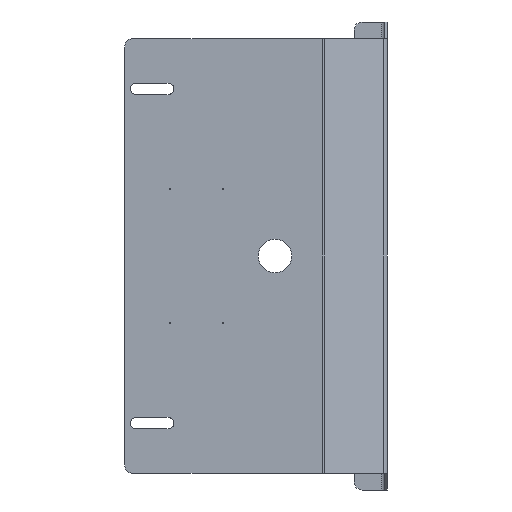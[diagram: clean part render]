
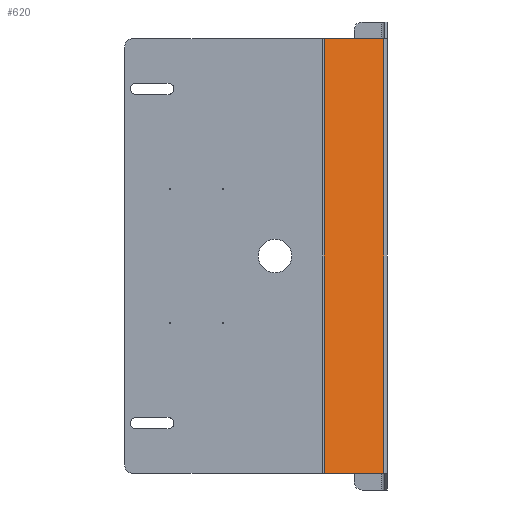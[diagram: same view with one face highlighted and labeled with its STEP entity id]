
A CAD part, left-side view. The second image highlights one B-rep face of the part: STEP entity #620.
In plain terms, the highlighted planar face has unit normal (-0.927, -0.375, 0).
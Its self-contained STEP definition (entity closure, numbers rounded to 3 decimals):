
#3 = VECTOR ( 'NONE', #1599, 1000. ) ;
#24 = DIRECTION ( 'NONE',  ( -0.927, -0.375, 0. ) ) ;
#76 = LINE ( 'NONE', #177, #3 ) ;
#160 = CARTESIAN_POINT ( 'NONE',  ( -20.498, -106.032, 140. ) ) ;
#177 = CARTESIAN_POINT ( 'NONE',  ( -20.498, -106.032, -130. ) ) ;
#233 = VECTOR ( 'NONE', #445, 1000. ) ;
#246 = LINE ( 'NONE', #506, #1536 ) ;
#323 = LINE ( 'NONE', #972, #1422 ) ;
#365 = CARTESIAN_POINT ( 'NONE',  ( -21.382, -103.843, -130. ) ) ;
#401 = EDGE_LOOP ( 'NONE', ( #971, #1113, #1195, #1367 ) ) ;
#412 = FACE_OUTER_BOUND ( 'NONE', #401, .T. ) ;
#425 = EDGE_CURVE ( 'NONE', #1652, #1573, #246, .T. ) ;
#430 = CARTESIAN_POINT ( 'NONE',  ( -35.743, -68.299, 130. ) ) ;
#445 = DIRECTION ( 'NONE',  ( 0., 0., -1. ) ) ;
#506 = CARTESIAN_POINT ( 'NONE',  ( -21.382, -103.843, 140. ) ) ;
#620 = ADVANCED_FACE ( 'NONE', ( #412 ), #805, .T. ) ;
#657 = CARTESIAN_POINT ( 'NONE',  ( -21.382, -103.843, 130. ) ) ;
#665 = VERTEX_POINT ( 'NONE', #430 ) ;
#694 = EDGE_CURVE ( 'NONE', #1652, #665, #323, .T. ) ;
#728 = EDGE_CURVE ( 'NONE', #1557, #1573, #76, .T. ) ;
#805 = PLANE ( 'NONE',  #1482 ) ;
#839 = DIRECTION ( 'NONE',  ( -0.375, 0.927, 0. ) ) ;
#865 = CARTESIAN_POINT ( 'NONE',  ( -35.743, -68.299, -130. ) ) ;
#889 = DIRECTION ( 'NONE',  ( 0., 0., -1. ) ) ;
#971 = ORIENTED_EDGE ( 'NONE', *, *, #425, .F. ) ;
#972 = CARTESIAN_POINT ( 'NONE',  ( -20.498, -106.032, 130. ) ) ;
#1087 = LINE ( 'NONE', #1614, #233 ) ;
#1113 = ORIENTED_EDGE ( 'NONE', *, *, #694, .T. ) ;
#1195 = ORIENTED_EDGE ( 'NONE', *, *, #1197, .T. ) ;
#1197 = EDGE_CURVE ( 'NONE', #665, #1557, #1087, .T. ) ;
#1367 = ORIENTED_EDGE ( 'NONE', *, *, #728, .T. ) ;
#1422 = VECTOR ( 'NONE', #839, 1000. ) ;
#1464 = DIRECTION ( 'NONE',  ( 0.375, -0.927, 0. ) ) ;
#1482 = AXIS2_PLACEMENT_3D ( 'NONE', #160, #24, #1464 ) ;
#1536 = VECTOR ( 'NONE', #889, 1000. ) ;
#1557 = VERTEX_POINT ( 'NONE', #865 ) ;
#1573 = VERTEX_POINT ( 'NONE', #365 ) ;
#1599 = DIRECTION ( 'NONE',  ( 0.375, -0.927, 0. ) ) ;
#1614 = CARTESIAN_POINT ( 'NONE',  ( -35.743, -68.299, 140. ) ) ;
#1652 = VERTEX_POINT ( 'NONE', #657 ) ;
